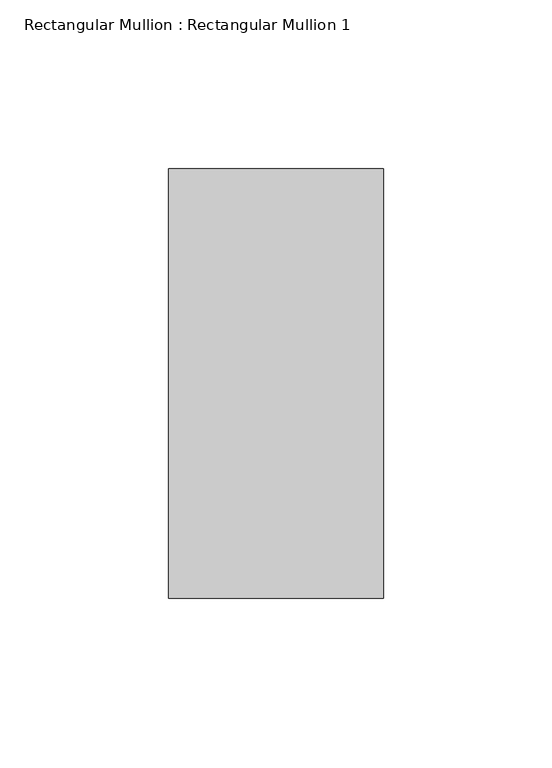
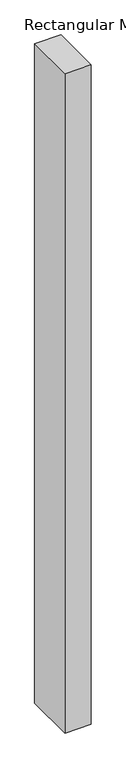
"""IFC4 building model written with IfcOpenShell, lengths in millimetres: member geometry, Rectangular Mullion : Rectangular Mullion 1."""

from ifc_helpers import new_model, si_unit, frame, origin, place, context, project, spatial, polyline, outline, extrude, source, transform, mapped, element, save


def rectangular_mullion_rectangular_mullion_1_5157a9ce(model_context):
    return source(origin(), model_context, "Body", "SweptSolid", [
        extrude(outline(polyline([(0.0, 63.5), (0.0, -63.5), (-63.5, -63.5), (-63.5, 63.5), (0.0, 63.5)])), frame((0.0, 0.0, -1689.8333335), z_axis=(0.0, 0.0, 1.0), x_axis=(1.0, 0.0, 0.0)), (0.0, 0.0, 1.0), 1689.8333335),
    ])


if __name__ == "__main__":
    model = new_model("IFC4")
    model_context = context("Model", 3, world=origin())
    ifc_project = project(units=[si_unit("LENGTHUNIT", "METRE", prefix="MILLI")], contexts=[model_context])
    site = spatial("IfcSite", under=ifc_project)
    building = spatial("IfcBuilding", under=site)
    placement = place(None, origin())
    rectangular_mullion_rectangular_mullion_1_shape = rectangular_mullion_rectangular_mullion_1_5157a9ce(model_context)
    element("IfcMember", 1, ObjectType="Rectangular Mullion : Rectangular Mullion 1", at=placement, inside=building, context=model_context, shape_type="MappedRepresentation", body=[
        mapped(rectangular_mullion_rectangular_mullion_1_shape, transform((0.0, 0.0, 0.0), x_axis=(1.0, 0.0, 0.0), y_axis=(0.0, 1.0, 0.0), z_axis=(0.0, 0.0, 1.0))),
    ])
    save(model, "model.ifc")
